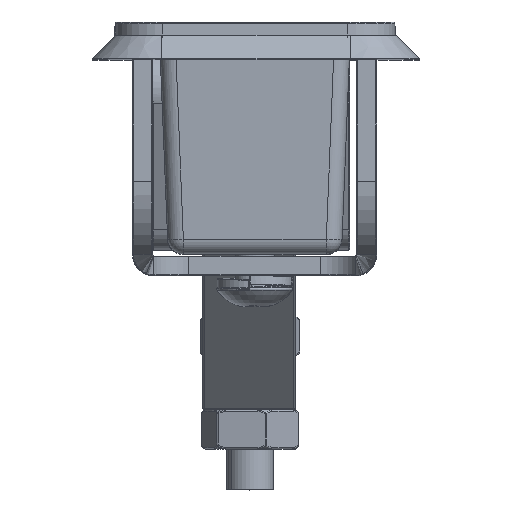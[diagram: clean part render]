
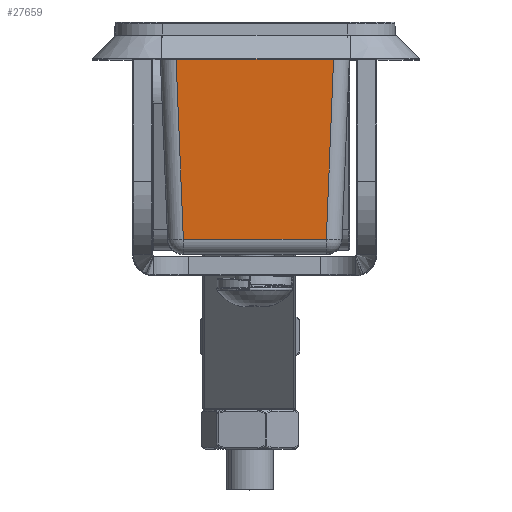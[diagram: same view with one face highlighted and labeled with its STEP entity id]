
A CAD part, top view. The second image highlights one B-rep face of the part: STEP entity #27659.
In plain terms, the highlighted planar face has unit normal (0, -0.05, 0.999).
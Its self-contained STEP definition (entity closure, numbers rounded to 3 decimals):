
#458 = CARTESIAN_POINT ( 'NONE',  ( 22.099, -0.095, -0.005 ) ) ;
#1581 = FACE_OUTER_BOUND ( 'NONE', #33300, .T. ) ;
#3576 = DIRECTION ( 'NONE',  ( 0., 0.999, 0.05 ) ) ;
#4156 = EDGE_CURVE ( 'NONE', #14269, #14987, #57733, .T. ) ;
#7108 = DIRECTION ( 'NONE',  ( 0.04, 0.998, 0.05 ) ) ;
#7878 = CARTESIAN_POINT ( 'NONE',  ( 2.971, -24.1, -1.205 ) ) ;
#8574 = CARTESIAN_POINT ( 'NONE',  ( 2.001, -0.095, -0.005 ) ) ;
#10953 = VECTOR ( 'NONE', #34780, 1000. ) ;
#11849 = CARTESIAN_POINT ( 'NONE',  ( 22.106, 0.08, 0.004 ) ) ;
#14269 = VERTEX_POINT ( 'NONE', #458 ) ;
#14987 = VERTEX_POINT ( 'NONE', #8574 ) ;
#15792 = CARTESIAN_POINT ( 'NONE',  ( 1.998, -0.095, -0.005 ) ) ;
#20426 = EDGE_CURVE ( 'NONE', #33547, #43414, #38747, .T. ) ;
#21406 = VECTOR ( 'NONE', #48975, 1000. ) ;
#22985 = EDGE_CURVE ( 'NONE', #14987, #33547, #23608, .T. ) ;
#23608 = LINE ( 'NONE', #25212, #10953 ) ;
#25212 = CARTESIAN_POINT ( 'NONE',  ( 3.044, -25.92, -1.296 ) ) ;
#25650 = VECTOR ( 'NONE', #7108, 1000. ) ;
#27659 = ADVANCED_FACE ( 'NONE', ( #1581 ), #60336, .F. ) ;
#31987 = DIRECTION ( 'NONE',  ( 0., 0.05, -0.999 ) ) ;
#32405 = ORIENTED_EDGE ( 'NONE', *, *, #4156, .T. ) ;
#33300 = EDGE_LOOP ( 'NONE', ( #35646, #32405, #47169, #47832 ) ) ;
#33547 = VERTEX_POINT ( 'NONE', #7878 ) ;
#34780 = DIRECTION ( 'NONE',  ( 0.04, -0.998, -0.05 ) ) ;
#35646 = ORIENTED_EDGE ( 'NONE', *, *, #37425, .T. ) ;
#36547 = CARTESIAN_POINT ( 'NONE',  ( 24.1, 0., 0. ) ) ;
#37425 = EDGE_CURVE ( 'NONE', #43414, #14269, #50876, .T. ) ;
#38747 = LINE ( 'NONE', #44893, #60926 ) ;
#43414 = VERTEX_POINT ( 'NONE', #53452 ) ;
#44893 = CARTESIAN_POINT ( 'NONE',  ( 24.1, -24.1, -1.205 ) ) ;
#47169 = ORIENTED_EDGE ( 'NONE', *, *, #22985, .T. ) ;
#47832 = ORIENTED_EDGE ( 'NONE', *, *, #20426, .T. ) ;
#48975 = DIRECTION ( 'NONE',  ( -1., 0., 0. ) ) ;
#50876 = LINE ( 'NONE', #11849, #25650 ) ;
#53452 = CARTESIAN_POINT ( 'NONE',  ( 21.129, -24.1, -1.205 ) ) ;
#54438 = DIRECTION ( 'NONE',  ( 1., 0., 0. ) ) ;
#57733 = LINE ( 'NONE', #15792, #21406 ) ;
#58213 = AXIS2_PLACEMENT_3D ( 'NONE', #36547, #31987, #3576 ) ;
#60336 = PLANE ( 'NONE',  #58213 ) ;
#60926 = VECTOR ( 'NONE', #54438, 1000. ) ;
